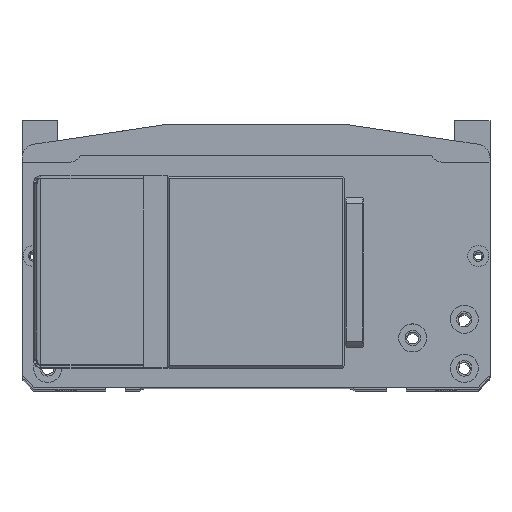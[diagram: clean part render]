
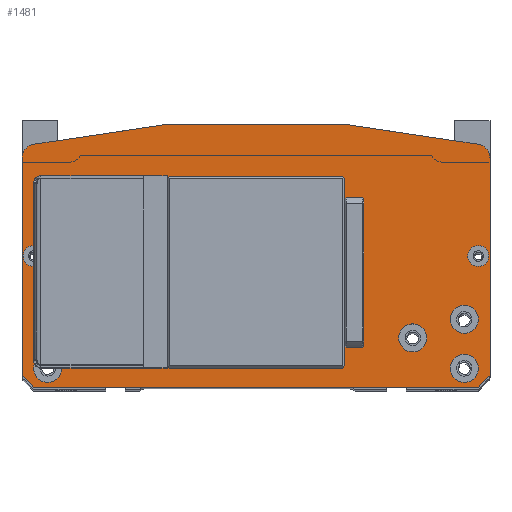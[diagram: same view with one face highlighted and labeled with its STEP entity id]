
A CAD part, top view. The second image highlights one B-rep face of the part: STEP entity #1481.
In plain terms, the highlighted planar face has unit normal (0, 0, 1).
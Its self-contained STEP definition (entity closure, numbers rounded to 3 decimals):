
#1481=ADVANCED_FACE('',(#5725,#5726,#5727,#5728,#5729,#5730,#5731,#5732,
#5733,#5734,#5735,#5736,#5737),#2456,.F.);
#2456=PLANE('',#17520);
#2919=LINE('',#24391,#4322);
#2920=LINE('',#24394,#4323);
#2921=LINE('',#24396,#4324);
#2922=LINE('',#24398,#4325);
#2923=LINE('',#24402,#4326);
#2924=LINE('',#24404,#4327);
#2925=LINE('',#24406,#4328);
#2926=LINE('',#24410,#4329);
#2927=LINE('',#24411,#4330);
#2928=LINE('',#24414,#4331);
#2929=LINE('',#24416,#4332);
#2930=LINE('',#24418,#4333);
#2931=LINE('',#24419,#4334);
#2932=LINE('',#24422,#4335);
#2933=LINE('',#24424,#4336);
#2934=LINE('',#24426,#4337);
#4322=VECTOR('',#19349,1.);
#4323=VECTOR('',#19350,1.);
#4324=VECTOR('',#19351,1.);
#4325=VECTOR('',#19352,1.);
#4326=VECTOR('',#19355,1.);
#4327=VECTOR('',#19356,1.);
#4328=VECTOR('',#19357,1.);
#4329=VECTOR('',#19360,1.);
#4330=VECTOR('',#19361,1.);
#4331=VECTOR('',#19362,1.);
#4332=VECTOR('',#19363,1.);
#4333=VECTOR('',#19364,1.);
#4334=VECTOR('',#19365,1.);
#4335=VECTOR('',#19366,1.);
#4336=VECTOR('',#19367,1.);
#4337=VECTOR('',#19368,1.);
#5725=FACE_BOUND('',#6395,.T.);
#5726=FACE_BOUND('',#6396,.T.);
#5727=FACE_BOUND('',#6397,.T.);
#5728=FACE_BOUND('',#6398,.T.);
#5729=FACE_BOUND('',#6399,.T.);
#5730=FACE_BOUND('',#6400,.T.);
#5731=FACE_BOUND('',#6401,.T.);
#5732=FACE_BOUND('',#6402,.T.);
#5733=FACE_BOUND('',#6403,.T.);
#5734=FACE_BOUND('',#6404,.T.);
#5735=FACE_BOUND('',#6405,.T.);
#5736=FACE_BOUND('',#6406,.T.);
#5737=FACE_BOUND('',#6407,.T.);
#6395=EDGE_LOOP('',(#7734));
#6396=EDGE_LOOP('',(#7735));
#6397=EDGE_LOOP('',(#7736));
#6398=EDGE_LOOP('',(#7737));
#6399=EDGE_LOOP('',(#7738));
#6400=EDGE_LOOP('',(#7739));
#6401=EDGE_LOOP('',(#7740));
#6402=EDGE_LOOP('',(#7741));
#6403=EDGE_LOOP('',(#7742));
#6404=EDGE_LOOP('',(#7743));
#6405=EDGE_LOOP('',(#7744,#7745,#7746,#7747,#7748,#7749,#7750,#7751,#7752,
#7753));
#6406=EDGE_LOOP('',(#7754,#7755,#7756,#7757));
#6407=EDGE_LOOP('',(#7758,#7759,#7760,#7761));
#7734=ORIENTED_EDGE('',*,*,#14240,.T.);
#7735=ORIENTED_EDGE('',*,*,#14241,.T.);
#7736=ORIENTED_EDGE('',*,*,#14242,.T.);
#7737=ORIENTED_EDGE('',*,*,#14243,.T.);
#7738=ORIENTED_EDGE('',*,*,#14244,.T.);
#7739=ORIENTED_EDGE('',*,*,#14245,.T.);
#7740=ORIENTED_EDGE('',*,*,#14246,.T.);
#7741=ORIENTED_EDGE('',*,*,#14247,.T.);
#7742=ORIENTED_EDGE('',*,*,#14248,.T.);
#7743=ORIENTED_EDGE('',*,*,#14249,.T.);
#7744=ORIENTED_EDGE('',*,*,#14250,.F.);
#7745=ORIENTED_EDGE('',*,*,#14251,.T.);
#7746=ORIENTED_EDGE('',*,*,#14252,.F.);
#7747=ORIENTED_EDGE('',*,*,#14253,.T.);
#7748=ORIENTED_EDGE('',*,*,#14254,.F.);
#7749=ORIENTED_EDGE('',*,*,#14255,.F.);
#7750=ORIENTED_EDGE('',*,*,#14256,.T.);
#7751=ORIENTED_EDGE('',*,*,#14257,.F.);
#7752=ORIENTED_EDGE('',*,*,#14258,.F.);
#7753=ORIENTED_EDGE('',*,*,#14259,.T.);
#7754=ORIENTED_EDGE('',*,*,#14260,.T.);
#7755=ORIENTED_EDGE('',*,*,#14261,.T.);
#7756=ORIENTED_EDGE('',*,*,#14262,.T.);
#7757=ORIENTED_EDGE('',*,*,#14263,.T.);
#7758=ORIENTED_EDGE('',*,*,#14264,.F.);
#7759=ORIENTED_EDGE('',*,*,#14265,.F.);
#7760=ORIENTED_EDGE('',*,*,#14266,.T.);
#7761=ORIENTED_EDGE('',*,*,#14267,.T.);
#12576=VERTEX_POINT('',#24372);
#12577=VERTEX_POINT('',#24374);
#12578=VERTEX_POINT('',#24376);
#12579=VERTEX_POINT('',#24378);
#12580=VERTEX_POINT('',#24380);
#12581=VERTEX_POINT('',#24382);
#12582=VERTEX_POINT('',#24384);
#12583=VERTEX_POINT('',#24386);
#12584=VERTEX_POINT('',#24388);
#12585=VERTEX_POINT('',#24390);
#12586=VERTEX_POINT('',#24392);
#12587=VERTEX_POINT('',#24393);
#12588=VERTEX_POINT('',#24395);
#12589=VERTEX_POINT('',#24397);
#12590=VERTEX_POINT('',#24399);
#12591=VERTEX_POINT('',#24401);
#12592=VERTEX_POINT('',#24403);
#12593=VERTEX_POINT('',#24405);
#12594=VERTEX_POINT('',#24407);
#12595=VERTEX_POINT('',#24409);
#12596=VERTEX_POINT('',#24412);
#12597=VERTEX_POINT('',#24413);
#12598=VERTEX_POINT('',#24415);
#12599=VERTEX_POINT('',#24417);
#12600=VERTEX_POINT('',#24420);
#12601=VERTEX_POINT('',#24421);
#12602=VERTEX_POINT('',#24423);
#12603=VERTEX_POINT('',#24425);
#14240=EDGE_CURVE('',#12576,#12576,#16661,.T.);
#14241=EDGE_CURVE('',#12577,#12577,#16662,.T.);
#14242=EDGE_CURVE('',#12578,#12578,#16663,.T.);
#14243=EDGE_CURVE('',#12579,#12579,#16664,.T.);
#14244=EDGE_CURVE('',#12580,#12580,#16665,.T.);
#14245=EDGE_CURVE('',#12581,#12581,#16666,.T.);
#14246=EDGE_CURVE('',#12582,#12582,#16667,.T.);
#14247=EDGE_CURVE('',#12583,#12583,#16668,.T.);
#14248=EDGE_CURVE('',#12584,#12584,#16669,.T.);
#14249=EDGE_CURVE('',#12585,#12585,#16670,.T.);
#14250=EDGE_CURVE('',#12586,#12587,#2919,.T.);
#14251=EDGE_CURVE('',#12586,#12588,#2920,.T.);
#14252=EDGE_CURVE('',#12589,#12588,#2921,.T.);
#14253=EDGE_CURVE('',#12589,#12590,#2922,.T.);
#14254=EDGE_CURVE('',#12591,#12590,#16671,.T.);
#14255=EDGE_CURVE('',#12592,#12591,#2923,.T.);
#14256=EDGE_CURVE('',#12592,#12593,#2924,.T.);
#14257=EDGE_CURVE('',#12594,#12593,#2925,.T.);
#14258=EDGE_CURVE('',#12595,#12594,#16672,.T.);
#14259=EDGE_CURVE('',#12595,#12587,#2926,.T.);
#14260=EDGE_CURVE('',#12596,#12597,#2927,.T.);
#14261=EDGE_CURVE('',#12597,#12598,#2928,.T.);
#14262=EDGE_CURVE('',#12598,#12599,#2929,.T.);
#14263=EDGE_CURVE('',#12599,#12596,#2930,.T.);
#14264=EDGE_CURVE('',#12600,#12601,#2931,.T.);
#14265=EDGE_CURVE('',#12602,#12600,#2932,.T.);
#14266=EDGE_CURVE('',#12602,#12603,#2933,.T.);
#14267=EDGE_CURVE('',#12603,#12601,#2934,.T.);
#16661=CIRCLE('',#17508,1.65);
#16662=CIRCLE('',#17509,1.65);
#16663=CIRCLE('',#17510,4.5);
#16664=CIRCLE('',#17511,4.5);
#16665=CIRCLE('',#17512,6.);
#16666=CIRCLE('',#17513,6.);
#16667=CIRCLE('',#17514,6.);
#16668=CIRCLE('',#17515,6.);
#16669=CIRCLE('',#17516,6.);
#16670=CIRCLE('',#17517,6.);
#16671=CIRCLE('',#17518,6.);
#16672=CIRCLE('',#17519,6.);
#17508=AXIS2_PLACEMENT_3D('',#24371,#19329,#19330);
#17509=AXIS2_PLACEMENT_3D('',#24373,#19331,#19332);
#17510=AXIS2_PLACEMENT_3D('',#24375,#19333,#19334);
#17511=AXIS2_PLACEMENT_3D('',#24377,#19335,#19336);
#17512=AXIS2_PLACEMENT_3D('',#24379,#19337,#19338);
#17513=AXIS2_PLACEMENT_3D('',#24381,#19339,#19340);
#17514=AXIS2_PLACEMENT_3D('',#24383,#19341,#19342);
#17515=AXIS2_PLACEMENT_3D('',#24385,#19343,#19344);
#17516=AXIS2_PLACEMENT_3D('',#24387,#19345,#19346);
#17517=AXIS2_PLACEMENT_3D('',#24389,#19347,#19348);
#17518=AXIS2_PLACEMENT_3D('',#24400,#19353,#19354);
#17519=AXIS2_PLACEMENT_3D('',#24408,#19358,#19359);
#17520=AXIS2_PLACEMENT_3D('',#24427,#19369,#19370);
#19329=DIRECTION('',(0.,0.,-1.));
#19330=DIRECTION('',(1.,0.,0.));
#19331=DIRECTION('',(0.,0.,-1.));
#19332=DIRECTION('',(1.,0.,0.));
#19333=DIRECTION('',(0.,0.,-1.));
#19334=DIRECTION('',(1.,0.,0.));
#19335=DIRECTION('',(0.,0.,-1.));
#19336=DIRECTION('',(1.,0.,0.));
#19337=DIRECTION('',(0.,0.,-1.));
#19338=DIRECTION('',(1.,0.,0.));
#19339=DIRECTION('',(0.,0.,-1.));
#19340=DIRECTION('',(1.,0.,0.));
#19341=DIRECTION('',(0.,0.,-1.));
#19342=DIRECTION('',(1.,0.,0.));
#19343=DIRECTION('',(0.,0.,-1.));
#19344=DIRECTION('',(1.,0.,0.));
#19345=DIRECTION('',(0.,0.,-1.));
#19346=DIRECTION('',(1.,0.,0.));
#19347=DIRECTION('',(0.,0.,-1.));
#19348=DIRECTION('',(1.,0.,0.));
#19349=DIRECTION('',(-0.707,0.707,0.));
#19350=DIRECTION('',(1.,0.,0.));
#19351=DIRECTION('',(-0.707,-0.707,0.));
#19352=DIRECTION('',(0.,1.,0.));
#19353=DIRECTION('',(0.,0.,-1.));
#19354=DIRECTION('',(0.148,0.989,0.));
#19355=DIRECTION('',(0.989,-0.148,0.));
#19356=DIRECTION('',(-1.,0.,0.));
#19357=DIRECTION('',(0.989,0.148,0.));
#19358=DIRECTION('',(0.,0.,-1.));
#19359=DIRECTION('',(-1.,0.,0.));
#19360=DIRECTION('',(0.,-1.,0.));
#19361=DIRECTION('',(0.,1.,0.));
#19362=DIRECTION('',(1.,0.,0.));
#19363=DIRECTION('',(0.,-1.,0.));
#19364=DIRECTION('',(-1.,0.,0.));
#19365=DIRECTION('',(0.,1.,0.));
#19366=DIRECTION('',(1.,0.,0.));
#19367=DIRECTION('',(0.,1.,0.));
#19368=DIRECTION('',(1.,0.,0.));
#19369=DIRECTION('',(0.,0.,-1.));
#19370=DIRECTION('',(-1.,0.,0.));
#24371=CARTESIAN_POINT('',(-42.,33.,463.));
#24372=CARTESIAN_POINT('',(-40.35,33.,463.));
#24373=CARTESIAN_POINT('',(-42.,69.,463.));
#24374=CARTESIAN_POINT('',(-40.35,69.,463.));
#24375=CARTESIAN_POINT('',(-95.,58.,463.));
#24376=CARTESIAN_POINT('',(-90.5,58.,463.));
#24377=CARTESIAN_POINT('',(95.,58.,463.));
#24378=CARTESIAN_POINT('',(99.5,58.,463.));
#24379=CARTESIAN_POINT('',(-67.,23.,463.));
#24380=CARTESIAN_POINT('',(-61.,23.,463.));
#24381=CARTESIAN_POINT('',(67.,23.,463.));
#24382=CARTESIAN_POINT('',(73.,23.,463.));
#24383=CARTESIAN_POINT('',(-89.,31.,463.));
#24384=CARTESIAN_POINT('',(-83.,31.,463.));
#24385=CARTESIAN_POINT('',(89.,31.,463.));
#24386=CARTESIAN_POINT('',(95.,31.,463.));
#24387=CARTESIAN_POINT('',(-89.,10.,463.));
#24388=CARTESIAN_POINT('',(-83.,10.,463.));
#24389=CARTESIAN_POINT('',(89.,10.,463.));
#24390=CARTESIAN_POINT('',(95.,10.,463.));
#24391=CARTESIAN_POINT('',(-95.,2.,463.));
#24392=CARTESIAN_POINT('',(-95.,2.,463.));
#24393=CARTESIAN_POINT('',(-100.,7.,463.));
#24394=CARTESIAN_POINT('',(67.5,2.,463.));
#24395=CARTESIAN_POINT('',(95.,2.,463.));
#24396=CARTESIAN_POINT('',(100.,7.,463.));
#24397=CARTESIAN_POINT('',(100.,7.,463.));
#24398=CARTESIAN_POINT('',(100.,7.,463.));
#24399=CARTESIAN_POINT('',(100.,99.833,463.));
#24400=CARTESIAN_POINT('',(94.,99.833,463.));
#24401=CARTESIAN_POINT('',(94.89,105.766,463.));
#24402=CARTESIAN_POINT('',(40.,114.,463.));
#24403=CARTESIAN_POINT('',(40.,114.,463.));
#24404=CARTESIAN_POINT('',(40.,114.,463.));
#24405=CARTESIAN_POINT('',(-40.,114.,463.));
#24406=CARTESIAN_POINT('',(-94.89,105.766,463.));
#24407=CARTESIAN_POINT('',(-94.89,105.766,463.));
#24408=CARTESIAN_POINT('',(-94.,99.833,463.));
#24409=CARTESIAN_POINT('',(-100.,99.833,463.));
#24410=CARTESIAN_POINT('',(-100.,99.833,463.));
#24411=CARTESIAN_POINT('',(-37.,91.,463.));
#24412=CARTESIAN_POINT('',(-37.,11.,463.));
#24413=CARTESIAN_POINT('',(-37.,91.,463.));
#24414=CARTESIAN_POINT('',(37.,91.,463.));
#24415=CARTESIAN_POINT('',(37.,91.,463.));
#24416=CARTESIAN_POINT('',(37.,11.,463.));
#24417=CARTESIAN_POINT('',(37.,11.,463.));
#24418=CARTESIAN_POINT('',(-37.,11.,463.));
#24419=CARTESIAN_POINT('',(45.5,80.466,463.));
#24420=CARTESIAN_POINT('',(45.5,21.534,463.));
#24421=CARTESIAN_POINT('',(45.5,80.466,463.));
#24422=CARTESIAN_POINT('',(45.5,21.534,463.));
#24423=CARTESIAN_POINT('',(38.5,21.534,463.));
#24424=CARTESIAN_POINT('',(38.5,80.466,463.));
#24425=CARTESIAN_POINT('',(38.5,80.466,463.));
#24426=CARTESIAN_POINT('',(45.5,80.466,463.));
#24427=CARTESIAN_POINT('',(0.,2.,463.));
